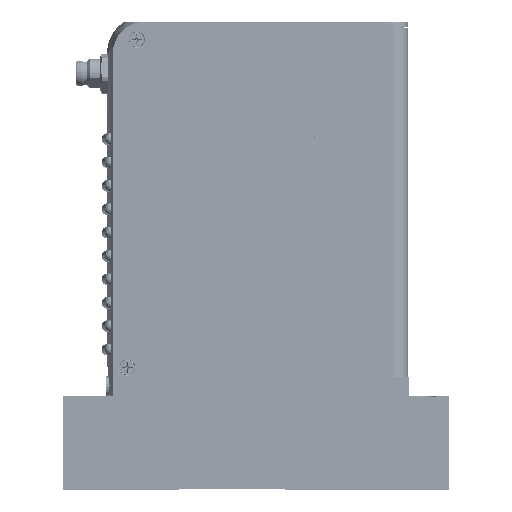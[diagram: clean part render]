
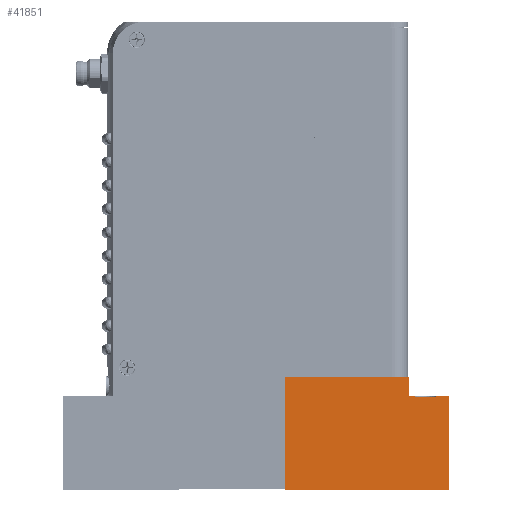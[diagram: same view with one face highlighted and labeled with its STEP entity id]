
A CAD part, top view. The second image highlights one B-rep face of the part: STEP entity #41851.
In plain terms, the highlighted planar face has unit normal (0, 0, 1).
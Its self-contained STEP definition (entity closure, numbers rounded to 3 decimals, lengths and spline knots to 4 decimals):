
#1305 = LINE ( 'NONE', #226770, #240849 ) ;
#16364 = VERTEX_POINT ( 'NONE', #266463 ) ;
#17994 = CARTESIAN_POINT ( 'NONE',  ( -3.6014, -1.0027, 2.6768 ) ) ;
#19138 = CARTESIAN_POINT ( 'NONE',  ( -2.2774, -1.2097, 2.6768 ) ) ;
#24105 = VERTEX_POINT ( 'NONE', #177713 ) ;
#24932 = FACE_OUTER_BOUND ( 'NONE', #172345, .T. ) ;
#24965 = CARTESIAN_POINT ( 'NONE',  ( -3.6014, -2.2097, 2.6768 ) ) ;
#28632 = VECTOR ( 'NONE', #181300, 39.3701 ) ;
#28980 = AXIS2_PLACEMENT_3D ( 'NONE', #230155, #266661, #85715 ) ;
#35318 = CARTESIAN_POINT ( 'NONE',  ( -1.9918, -1.2097, 2.6768 ) ) ;
#35456 = LINE ( 'NONE', #36788, #28632 ) ;
#36439 = LINE ( 'NONE', #221430, #231451 ) ;
#36788 = CARTESIAN_POINT ( 'NONE',  ( -1.9918, -1.2197, 2.6768 ) ) ;
#38261 = DIRECTION ( 'NONE',  ( 0., 1., 0. ) ) ;
#41851 = ADVANCED_FACE ( 'NONE', ( #24932 ), #64117, .F. ) ;
#43036 = VECTOR ( 'NONE', #206961, 39.3701 ) ;
#45327 = CARTESIAN_POINT ( 'NONE',  ( -2.2111, -1.2197, 2.6768 ) ) ;
#45505 = CARTESIAN_POINT ( 'NONE',  ( -3.6014, -1.0027, 2.6768 ) ) ;
#49015 = VECTOR ( 'NONE', #135455, 39.3701 ) ;
#49811 = CARTESIAN_POINT ( 'NONE',  ( -2.2111, -1.2097, 2.6768 ) ) ;
#50126 = VECTOR ( 'NONE', #156420, 39.3701 ) ;
#50583 = LINE ( 'NONE', #99080, #202571 ) ;
#51348 = ORIENTED_EDGE ( 'NONE', *, *, #264468, .F. ) ;
#52286 = VERTEX_POINT ( 'NONE', #161267 ) ;
#56976 = DIRECTION ( 'NONE',  ( 0., 1., 0. ) ) ;
#58811 = EDGE_CURVE ( 'NONE', #66435, #24105, #124630, .T. ) ;
#64117 = PLANE ( 'NONE',  #28980 ) ;
#64143 = LINE ( 'NONE', #24965, #112600 ) ;
#66435 = VERTEX_POINT ( 'NONE', #45505 ) ;
#68758 = ORIENTED_EDGE ( 'NONE', *, *, #206212, .F. ) ;
#71740 = VECTOR ( 'NONE', #177995, 39.3701 ) ;
#78586 = LINE ( 'NONE', #19138, #225637 ) ;
#85715 = DIRECTION ( 'NONE',  ( -1., 0., 0. ) ) ;
#95627 = LINE ( 'NONE', #134837, #50126 ) ;
#96963 = LINE ( 'NONE', #176665, #71740 ) ;
#99080 = CARTESIAN_POINT ( 'NONE',  ( -2.2111, -1.2197, 2.6768 ) ) ;
#102946 = VERTEX_POINT ( 'NONE', #214476 ) ;
#107651 = VERTEX_POINT ( 'NONE', #149680 ) ;
#108708 = ORIENTED_EDGE ( 'NONE', *, *, #264409, .F. ) ;
#111455 = EDGE_CURVE ( 'NONE', #66435, #232132, #36439, .T. ) ;
#112600 = VECTOR ( 'NONE', #227530, 39.3701 ) ;
#112854 = VERTEX_POINT ( 'NONE', #49811 ) ;
#113529 = DIRECTION ( 'NONE',  ( 1., 0., 0. ) ) ;
#114514 = VERTEX_POINT ( 'NONE', #45327 ) ;
#122395 = VERTEX_POINT ( 'NONE', #35318 ) ;
#124386 = ORIENTED_EDGE ( 'NONE', *, *, #247721, .T. ) ;
#124630 = LINE ( 'NONE', #17994, #43036 ) ;
#129411 = EDGE_CURVE ( 'NONE', #107651, #232132, #78586, .T. ) ;
#134837 = CARTESIAN_POINT ( 'NONE',  ( -1.8474, -1.2097, 2.6768 ) ) ;
#135455 = DIRECTION ( 'NONE',  ( 1., 0., 0. ) ) ;
#149680 = CARTESIAN_POINT ( 'NONE',  ( -2.2774, -1.2097, 2.6768 ) ) ;
#152078 = EDGE_CURVE ( 'NONE', #24105, #102946, #64143, .T. ) ;
#156134 = ORIENTED_EDGE ( 'NONE', *, *, #158216, .T. ) ;
#156420 = DIRECTION ( 'NONE',  ( 1., 0., 0. ) ) ;
#158216 = EDGE_CURVE ( 'NONE', #114514, #112854, #50583, .T. ) ;
#161267 = CARTESIAN_POINT ( 'NONE',  ( -1.8474, -1.2097, 2.6768 ) ) ;
#166607 = CARTESIAN_POINT ( 'NONE',  ( -2.2774, -1.0027, 2.6768 ) ) ;
#172345 = EDGE_LOOP ( 'NONE', ( #235920, #156134, #51348, #188775, #186559, #258123, #192936, #108708, #68758, #124386 ) ) ;
#176665 = CARTESIAN_POINT ( 'NONE',  ( -1.8474, -1.0027, 2.6768 ) ) ;
#177283 = CARTESIAN_POINT ( 'NONE',  ( -1.8474, -1.2097, 2.6768 ) ) ;
#177713 = CARTESIAN_POINT ( 'NONE',  ( -3.6014, -2.2097, 2.6768 ) ) ;
#177995 = DIRECTION ( 'NONE',  ( 0., -1., 0. ) ) ;
#181300 = DIRECTION ( 'NONE',  ( 0., -1., 0. ) ) ;
#186559 = ORIENTED_EDGE ( 'NONE', *, *, #111455, .F. ) ;
#188775 = ORIENTED_EDGE ( 'NONE', *, *, #129411, .T. ) ;
#192936 = ORIENTED_EDGE ( 'NONE', *, *, #152078, .T. ) ;
#202571 = VECTOR ( 'NONE', #38261, 39.3701 ) ;
#206212 = EDGE_CURVE ( 'NONE', #122395, #52286, #216448, .T. ) ;
#206503 = DIRECTION ( 'NONE',  ( 1., 0., 0. ) ) ;
#206961 = DIRECTION ( 'NONE',  ( 0., -1., 0. ) ) ;
#214476 = CARTESIAN_POINT ( 'NONE',  ( -1.8474, -2.2097, 2.6768 ) ) ;
#216448 = LINE ( 'NONE', #177283, #49015 ) ;
#220064 = EDGE_CURVE ( 'NONE', #114514, #16364, #1305, .T. ) ;
#221430 = CARTESIAN_POINT ( 'NONE',  ( -3.6014, -1.0027, 2.6768 ) ) ;
#225637 = VECTOR ( 'NONE', #56976, 39.3701 ) ;
#226770 = CARTESIAN_POINT ( 'NONE',  ( -3.6014, -1.2197, 2.6768 ) ) ;
#227530 = DIRECTION ( 'NONE',  ( 1., 0., 0. ) ) ;
#230155 = CARTESIAN_POINT ( 'NONE',  ( -3.6014, -1.0027, 2.6768 ) ) ;
#231451 = VECTOR ( 'NONE', #113529, 39.3701 ) ;
#232132 = VERTEX_POINT ( 'NONE', #166607 ) ;
#235920 = ORIENTED_EDGE ( 'NONE', *, *, #220064, .F. ) ;
#240849 = VECTOR ( 'NONE', #206503, 39.3701 ) ;
#247721 = EDGE_CURVE ( 'NONE', #122395, #16364, #35456, .T. ) ;
#258123 = ORIENTED_EDGE ( 'NONE', *, *, #58811, .T. ) ;
#264409 = EDGE_CURVE ( 'NONE', #52286, #102946, #96963, .T. ) ;
#264468 = EDGE_CURVE ( 'NONE', #107651, #112854, #95627, .T. ) ;
#266463 = CARTESIAN_POINT ( 'NONE',  ( -1.9918, -1.2197, 2.6768 ) ) ;
#266661 = DIRECTION ( 'NONE',  ( 0., 0., -1. ) ) ;
